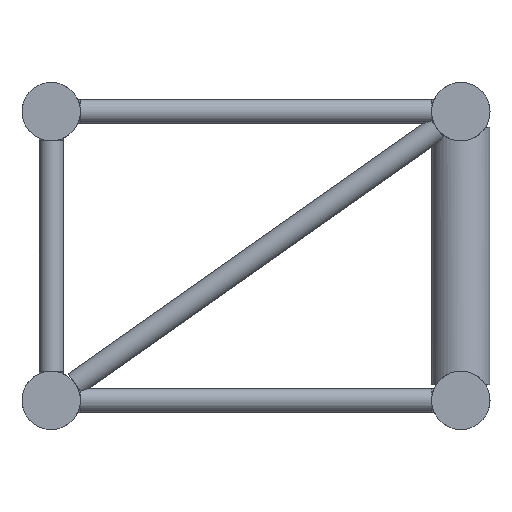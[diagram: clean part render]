
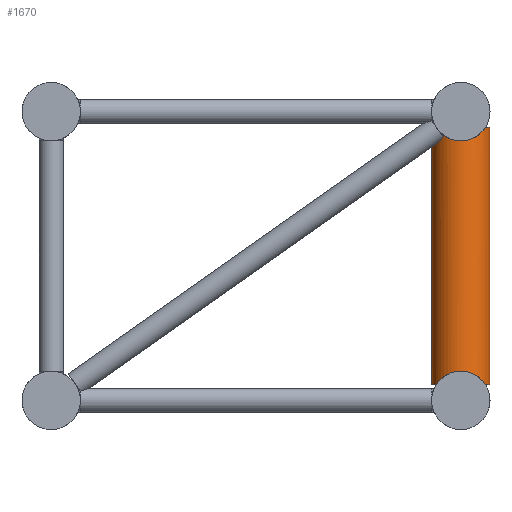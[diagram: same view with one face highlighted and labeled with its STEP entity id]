
A CAD part, left-side view. The second image highlights one B-rep face of the part: STEP entity #1670.
In plain terms, the highlighted cylindrical face has radius 24.15 mm (diameter 48.3 mm), a full revolution.
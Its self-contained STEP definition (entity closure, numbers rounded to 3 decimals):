
#23=B_SPLINE_CURVE_WITH_KNOTS('',3,(#2437,#2438,#2439,#2440,#2441,#2442,
#2443,#2444,#2445,#2446,#2447,#2448,#2449,#2450,#2451,#2452,#2453,#2454,
#2455,#2456,#2457,#2458),.UNSPECIFIED.,.F.,.F.,(4,2,2,2,2,2,2,2,2,2,4),
(1.619,2.098,2.448,2.797,2.963,
3.129,3.294,3.46,3.868,4.276,
4.635),.UNSPECIFIED.);
#90=FACE_BOUND('',#409,.T.);
#184=CYLINDRICAL_SURFACE('',#1853,24.15);
#220=ELLIPSE('',#1812,41.912,24.15);
#221=ELLIPSE('',#1819,34.153,24.15);
#222=ELLIPSE('',#1820,34.153,24.15);
#232=ELLIPSE('',#1854,34.153,24.15);
#233=ELLIPSE('',#1855,34.153,24.15);
#285=FACE_OUTER_BOUND('',#408,.T.);
#408=EDGE_LOOP('',(#1250,#1251,#1252,#1253,#1254,#1255));
#409=EDGE_LOOP('',(#1256,#1257,#1258,#1259));
#585=CIRCLE('',#1815,24.15);
#596=CIRCLE('',#1848,24.15);
#597=CIRCLE('',#1850,24.15);
#598=CIRCLE('',#1852,24.15);
#707=VERTEX_POINT('',#2434);
#708=VERTEX_POINT('',#2436);
#749=VERTEX_POINT('',#2623);
#750=VERTEX_POINT('',#2628);
#755=VERTEX_POINT('',#2722);
#756=VERTEX_POINT('',#2724);
#773=VERTEX_POINT('',#2780);
#774=VERTEX_POINT('',#2781);
#775=VERTEX_POINT('',#2785);
#776=VERTEX_POINT('',#2786);
#863=EDGE_CURVE('',#708,#707,#23,.T.);
#924=EDGE_CURVE('',#749,#708,#220,.T.);
#927=EDGE_CURVE('',#750,#707,#585,.T.);
#932=EDGE_CURVE('',#749,#755,#221,.T.);
#934=EDGE_CURVE('',#756,#750,#222,.T.);
#960=EDGE_CURVE('',#755,#756,#596,.T.);
#962=EDGE_CURVE('',#773,#774,#597,.T.);
#964=EDGE_CURVE('',#775,#776,#598,.T.);
#965=EDGE_CURVE('',#776,#773,#232,.T.);
#966=EDGE_CURVE('',#774,#775,#233,.T.);
#1250=ORIENTED_EDGE('',*,*,#863,.T.);
#1251=ORIENTED_EDGE('',*,*,#927,.F.);
#1252=ORIENTED_EDGE('',*,*,#934,.F.);
#1253=ORIENTED_EDGE('',*,*,#960,.F.);
#1254=ORIENTED_EDGE('',*,*,#932,.F.);
#1255=ORIENTED_EDGE('',*,*,#924,.T.);
#1256=ORIENTED_EDGE('',*,*,#965,.F.);
#1257=ORIENTED_EDGE('',*,*,#964,.F.);
#1258=ORIENTED_EDGE('',*,*,#966,.F.);
#1259=ORIENTED_EDGE('',*,*,#962,.F.);
#1670=ADVANCED_FACE('',(#285,#90),#184,.T.);
#1812=AXIS2_PLACEMENT_3D('',#2624,#2132,#2133);
#1815=AXIS2_PLACEMENT_3D('',#2630,#2140,#2141);
#1819=AXIS2_PLACEMENT_3D('',#2723,#2148,#2149);
#1820=AXIS2_PLACEMENT_3D('',#2726,#2151,#2152);
#1848=AXIS2_PLACEMENT_3D('',#2778,#2215,#2216);
#1850=AXIS2_PLACEMENT_3D('',#2783,#2220,#2221);
#1852=AXIS2_PLACEMENT_3D('',#2788,#2225,#2226);
#1853=AXIS2_PLACEMENT_3D('',#2789,#2227,#2228);
#1854=AXIS2_PLACEMENT_3D('',#2790,#2229,#2230);
#1855=AXIS2_PLACEMENT_3D('',#2791,#2231,#2232);
#2132=DIRECTION('center_axis',(0.,-0.817,
0.576));
#2133=DIRECTION('ref_axis',(0.,-0.576,-0.817));
#2140=DIRECTION('center_axis',(0.,0.,1.));
#2141=DIRECTION('ref_axis',(-1.,0.,0.));
#2148=DIRECTION('center_axis',(-0.707,0.,0.707));
#2149=DIRECTION('ref_axis',(-0.707,0.,-0.707));
#2151=DIRECTION('center_axis',(0.707,0.,0.707));
#2152=DIRECTION('ref_axis',(-0.707,0.,0.707));
#2215=DIRECTION('center_axis',(0.,0.,1.));
#2216=DIRECTION('ref_axis',(-1.,0.,0.));
#2220=DIRECTION('center_axis',(0.,0.,-1.));
#2221=DIRECTION('ref_axis',(-1.,0.,0.));
#2225=DIRECTION('center_axis',(0.,0.,-1.));
#2226=DIRECTION('ref_axis',(-1.,0.,0.));
#2227=DIRECTION('center_axis',(0.,0.,1.));
#2228=DIRECTION('ref_axis',(-1.,0.,0.));
#2229=DIRECTION('center_axis',(0.707,0.,-0.707));
#2230=DIRECTION('ref_axis',(-0.707,0.,-0.707));
#2231=DIRECTION('center_axis',(-0.707,0.,-0.707));
#2232=DIRECTION('ref_axis',(-0.707,0.,0.707));
#2434=CARTESIAN_POINT('',(69.566,23.711,-13.15));
#2436=CARTESIAN_POINT('',(54.872,14.545,-20.759));
#2437=CARTESIAN_POINT('Ctrl Pts',(54.872,14.545,-20.759));
#2438=CARTESIAN_POINT('Ctrl Pts',(55.539,15.43,-21.871));
#2439=CARTESIAN_POINT('Ctrl Pts',(56.282,16.29,-22.894));
#2440=CARTESIAN_POINT('Ctrl Pts',(57.74,17.739,-24.451));
#2441=CARTESIAN_POINT('Ctrl Pts',(58.405,18.336,-25.041));
#2442=CARTESIAN_POINT('Ctrl Pts',(59.897,19.519,-26.03));
#2443=CARTESIAN_POINT('Ctrl Pts',(60.719,20.104,-26.438));
#2444=CARTESIAN_POINT('Ctrl Pts',(62.167,20.975,-26.746));
#2445=CARTESIAN_POINT('Ctrl Pts',(62.666,21.252,-26.794));
#2446=CARTESIAN_POINT('Ctrl Pts',(63.682,21.771,-26.743));
#2447=CARTESIAN_POINT('Ctrl Pts',(64.199,22.011,-26.644));
#2448=CARTESIAN_POINT('Ctrl Pts',(65.2,22.437,-26.293));
#2449=CARTESIAN_POINT('Ctrl Pts',(65.685,22.623,-26.039));
#2450=CARTESIAN_POINT('Ctrl Pts',(66.582,22.938,-25.41));
#2451=CARTESIAN_POINT('Ctrl Pts',(66.993,23.068,-25.034));
#2452=CARTESIAN_POINT('Ctrl Pts',(68.242,23.435,-23.633));
#2453=CARTESIAN_POINT('Ctrl Pts',(68.924,23.582,-22.355));
#2454=CARTESIAN_POINT('Ctrl Pts',(69.805,23.76,-19.606));
#2455=CARTESIAN_POINT('Ctrl Pts',(70.,23.791,-18.133));
#2456=CARTESIAN_POINT('Ctrl Pts',(70.,23.791,-15.575));
#2457=CARTESIAN_POINT('Ctrl Pts',(69.855,23.767,-14.351));
#2458=CARTESIAN_POINT('Ctrl Pts',(69.566,23.711,-13.15));
#2623=CARTESIAN_POINT('',(57.303,17.304,-16.847));
#2624=CARTESIAN_POINT('Origin',(74.15,0.,-41.39));
#2628=CARTESIAN_POINT('',(87.3,20.256,-13.15));
#2630=CARTESIAN_POINT('Origin',(74.15,0.,-13.15));
#2722=CARTESIAN_POINT('',(61.,-20.256,-13.15));
#2723=CARTESIAN_POINT('Origin',(74.15,0.,0.));
#2724=CARTESIAN_POINT('',(87.3,-20.256,-13.15));
#2726=CARTESIAN_POINT('Origin',(74.15,0.,0.));
#2778=CARTESIAN_POINT('Origin',(74.15,0.,-13.15));
#2780=CARTESIAN_POINT('',(87.3,-20.256,-225.85));
#2781=CARTESIAN_POINT('',(61.,-20.256,-225.85));
#2783=CARTESIAN_POINT('Origin',(74.15,0.,-225.85));
#2785=CARTESIAN_POINT('',(61.,20.256,-225.85));
#2786=CARTESIAN_POINT('',(87.3,20.256,-225.85));
#2788=CARTESIAN_POINT('Origin',(74.15,0.,-225.85));
#2789=CARTESIAN_POINT('Origin',(74.15,0.,-225.85));
#2790=CARTESIAN_POINT('Origin',(74.15,0.,-239.));
#2791=CARTESIAN_POINT('Origin',(74.15,0.,-239.));
